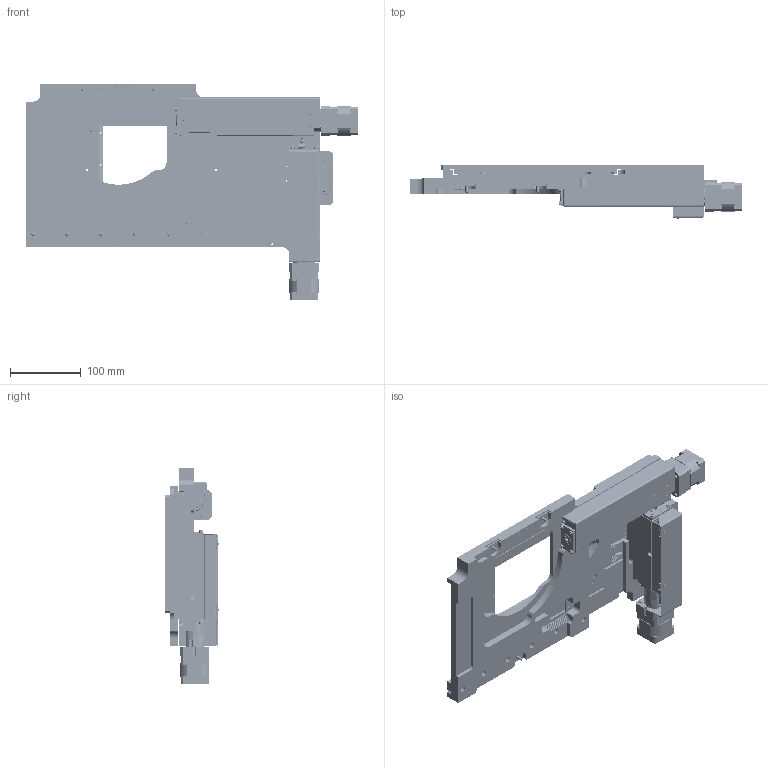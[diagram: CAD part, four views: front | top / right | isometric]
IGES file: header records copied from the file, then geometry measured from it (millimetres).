
Start section: SolidWorks IGES file using analytic representation for surfaces
Global section: file name: C:\1-DATA-FILES-FOR-PROJECTS\2022-PRODUCT-REFERENCE-MODELS\6-SECOND-BATCH-STAGES\21-H117PL14\2-H117P1L4-REFERENCE-PARTS\H117P1L4_REFERENCE-IGES.IGS; native system: SolidWorks 2019; preprocessor: SolidWorks 2019; author: jwilliams; date: 220218.125620; units: inch
Bounding box: 467.8 x 74.7 x 304.7 mm (x, y, z)
Surface area: 660573.7 mm2 (no closed solid volume)
Topology: 0 solids, 0 shells, 5069 faces, 60738 edges, 60552 vertices
Faces by surface type: bspline 2742, revolution 2327
